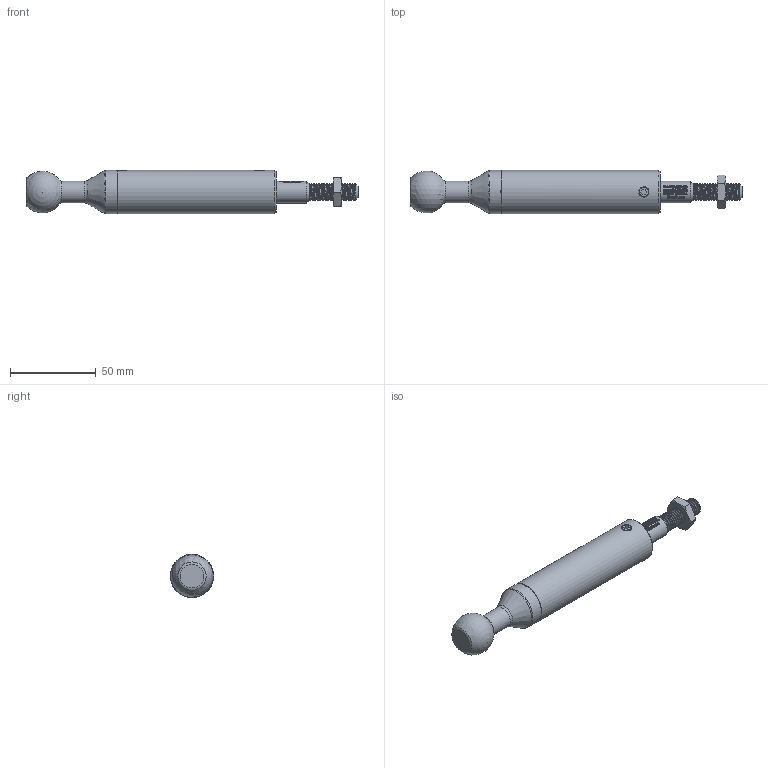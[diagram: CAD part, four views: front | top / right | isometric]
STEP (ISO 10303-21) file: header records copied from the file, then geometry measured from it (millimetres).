
FILE_DESCRIPTION(/* description */ ('POP-LINK TELESCOPIC POST 2IN'),/* implementation_level */ '2;1');
FILE_NAME(/* name */ 'C:\Users\Doug Biddinger\Desktop\THREADED POST UPDATES\PL-TPOST2IN-THD.stp',/* time_stamp */ '2019-02-28T15:07:15-05:00',/* author */ ('Doug Biddinger'),/* organization */ (''),/* preprocessor_version */ 'ST-DEVELOPER v17',/* originating_system */ 'Autodesk Inventor 2019',/* authorisation */ '');
FILE_SCHEMA (('CONFIG_CONTROL_DESIGN'));
Length unit declared in the file: inch
Products named in the file (6): PL-TPOST2IN 2PC; 60007; 60039; 60046; 60009; 60002
Assembly tree (5 placements, depth 2):
  PL-TPOST2IN 2PC
    60007
    60039
    60046
    60009
    60002
Bounding box: 193.07 x 25.15 x 25.27 mm (x, y, z)
Volume: 65901.5 mm3; surface area: 24894.2 mm2
Topology: 6 solids, 6 shells, 943 faces, 2547 edges, 1699 vertices
Faces by surface type: plane 418, bspline 364, cylinder 121, cone 32, torus 7, sphere 1
Full cylindrical faces by diameter (mm): 4 x1, 4.928 x1, 4.978 x1, 6 x1, 8.042 x2, 9 x2, 10 x20, 12.611 x1, 12.7 x1, 12.769 x1, 13.576 x1, 13.785 x1, 13.83 x2, 13.886 x1, 25.146 x2
Entity records: 46117 total; most frequent: CARTESIAN_POINT 24346, ORIENTED_EDGE 5088, DIRECTION 3396, EDGE_CURVE 2544, VERTEX_POINT 1699, LINE 1190, VECTOR 1190, AXIS2_PLACEMENT_3D 1103
